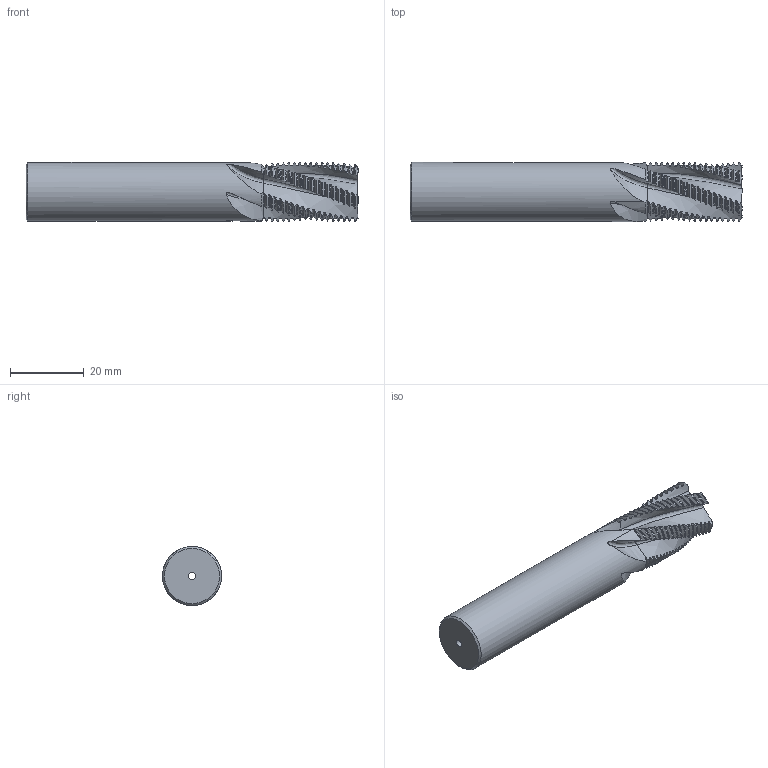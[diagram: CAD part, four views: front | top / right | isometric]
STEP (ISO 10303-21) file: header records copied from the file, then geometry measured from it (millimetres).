
FILE_DESCRIPTION(/* description */ (''),/* implementation_level */ '2;1');
FILE_NAME(/* name */ '00035636-STEP',/* time_stamp */ '2024-02-13T14:10:32+01:00',/* author */ (''),/* organization */ (''),/* preprocessor_version */ 'ST-DEVELOPER v16.5',/* originating_system */ 'HiCAD 2017 2201.0 Build 268',/* authorisation */ '');
FILE_SCHEMA (('AUTOMOTIVE_DESIGN { 1 0 10303 214 1 1 1 1 }'));
Products named in the file (2): Root; ROTATIONSTEIL_2
Assembly tree (1 placements, depth 2):
  Root
    ROTATIONSTEIL_2
Bounding box: 90 x 16 x 16 mm (x, y, z)
Volume: 15236.7 mm3; surface area: 6124.1 mm2
Topology: 1 solids, 1 shells, 566 faces, 1689 edges, 1125 vertices
Faces by surface type: cylinder 178, cone 176, torus 175, bspline 35, plane 2
Full cylindrical faces by diameter (mm): 2 x1, 16 x1
Entity records: 57669 total; most frequent: CARTESIAN_POINT 28702, PRESENTATION_STYLE_ASSIGNMENT 3361, COLOUR_RGB 3361, DRAUGHTING_PRE_DEFINED_CURVE_FONT 3360, CURVE_STYLE 3360, OVER_RIDING_STYLED_ITEM 3360, ORIENTED_EDGE 3360, DIRECTION 2134
